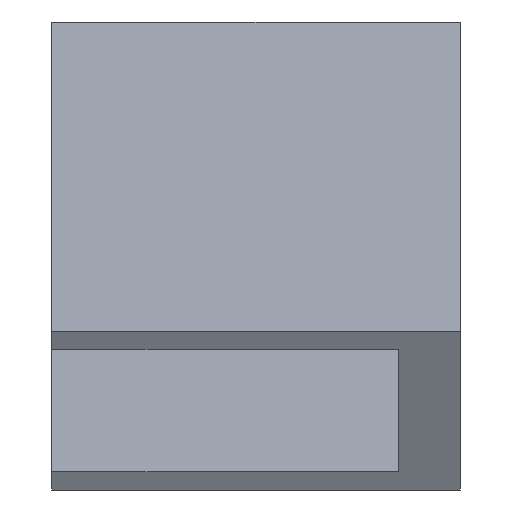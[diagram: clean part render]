
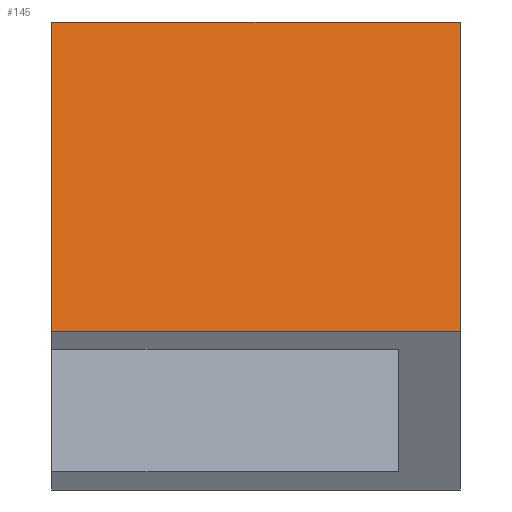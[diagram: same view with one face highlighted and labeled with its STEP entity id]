
A CAD part, top view. The second image highlights one B-rep face of the part: STEP entity #145.
In plain terms, the highlighted planar face has unit normal (0, 0.174, 0.985).
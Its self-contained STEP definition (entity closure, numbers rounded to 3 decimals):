
#67=CARTESIAN_POINT('',(78.5,-229.212,454.501));
#68=VERTEX_POINT('',#67);
#75=CARTESIAN_POINT('',(78.5,-288.3,464.92));
#76=VERTEX_POINT('',#75);
#77=CARTESIAN_POINT('',(78.5,-229.212,454.501));
#78=DIRECTION('',(0.0,-0.985,0.174));
#79=VECTOR('',#78,1.);
#80=LINE('',#77,#79);
#81=EDGE_CURVE('',#68,#76,#80,.T.);
#115=CARTESIAN_POINT('',(78.5,-229.212,454.501));
#116=DIRECTION('',(0.0,0.174,0.985));
#117=DIRECTION('',(-1.0,0.0,0.0));
#118=AXIS2_PLACEMENT_3D('',#115,#116,#117);
#119=PLANE('',#118);
#120=CARTESIAN_POINT('',(0.5,-229.212,454.501));
#121=VERTEX_POINT('',#120);
#122=CARTESIAN_POINT('',(78.5,-229.212,454.501));
#123=DIRECTION('',(-1.0,0.,0.));
#124=VECTOR('',#123,1.);
#125=LINE('',#122,#124);
#126=EDGE_CURVE('',#68,#121,#125,.T.);
#127=ORIENTED_EDGE('',*,*,#126,.T.);
#128=CARTESIAN_POINT('',(0.5,-288.3,464.92));
#129=VERTEX_POINT('',#128);
#130=CARTESIAN_POINT('',(0.5,-229.212,454.501));
#131=DIRECTION('',(0.0,-0.985,0.174));
#132=VECTOR('',#131,1.);
#133=LINE('',#130,#132);
#134=EDGE_CURVE('',#121,#129,#133,.T.);
#135=ORIENTED_EDGE('',*,*,#134,.T.);
#136=CARTESIAN_POINT('',(78.5,-288.3,464.92));
#137=DIRECTION('',(-1.0,0.,0.));
#138=VECTOR('',#137,1.);
#139=LINE('',#136,#138);
#140=EDGE_CURVE('',#76,#129,#139,.T.);
#141=ORIENTED_EDGE('',*,*,#140,.F.);
#142=ORIENTED_EDGE('',*,*,#81,.F.);
#143=EDGE_LOOP('',(#127,#135,#141,#142));
#144=FACE_BOUND('',#143,.T.);
#145=ADVANCED_FACE('',(#144),#119,.T.);
